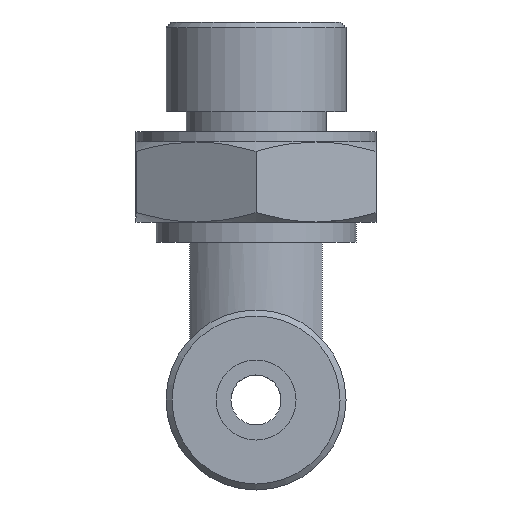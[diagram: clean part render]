
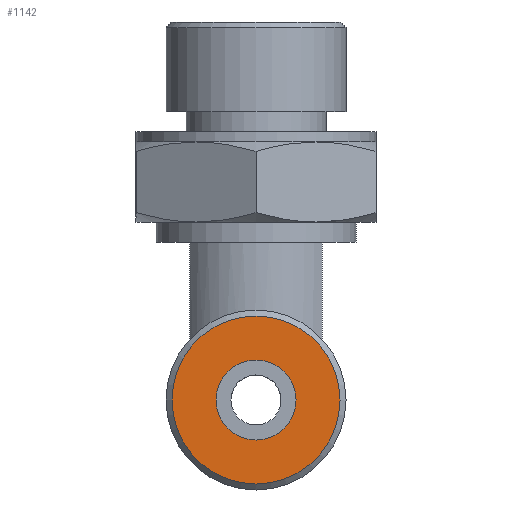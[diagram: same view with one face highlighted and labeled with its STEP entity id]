
A CAD part, front view. The second image highlights one B-rep face of the part: STEP entity #1142.
In plain terms, the highlighted planar face has unit normal (0, -1, 0).
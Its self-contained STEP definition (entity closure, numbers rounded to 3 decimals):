
#85=FACE_BOUND('',#269,.T.);
#111=PLANE('',#1350);
#182=FACE_OUTER_BOUND('',#268,.T.);
#268=EDGE_LOOP('',(#969));
#269=EDGE_LOOP('',(#970));
#438=CIRCLE('',#1333,2.);
#446=CIRCLE('',#1347,4.2);
#546=VERTEX_POINT('',#2073);
#553=VERTEX_POINT('',#2099);
#683=EDGE_CURVE('',#546,#546,#438,.T.);
#697=EDGE_CURVE('',#553,#553,#446,.T.);
#969=ORIENTED_EDGE('',*,*,#697,.F.);
#970=ORIENTED_EDGE('',*,*,#683,.T.);
#1142=ADVANCED_FACE('',(#182,#85),#111,.F.);
#1333=AXIS2_PLACEMENT_3D('',#2074,#1634,#1635);
#1347=AXIS2_PLACEMENT_3D('',#2101,#1668,#1669);
#1350=AXIS2_PLACEMENT_3D('',#2106,#1675,#1676);
#1634=DIRECTION('center_axis',(0.,1.,0.));
#1635=DIRECTION('ref_axis',(1.,0.,0.));
#1668=DIRECTION('center_axis',(0.,1.,0.));
#1669=DIRECTION('ref_axis',(-1.,0.,0.));
#1675=DIRECTION('center_axis',(0.,1.,0.));
#1676=DIRECTION('ref_axis',(0.,0.,1.));
#2073=CARTESIAN_POINT('',(-2.,-17.5,0.));
#2074=CARTESIAN_POINT('Origin',(0.,-17.5,0.));
#2099=CARTESIAN_POINT('',(4.2,-17.5,0.));
#2101=CARTESIAN_POINT('Origin',(0.,-17.5,0.));
#2106=CARTESIAN_POINT('Origin',(0.,-17.5,0.));
